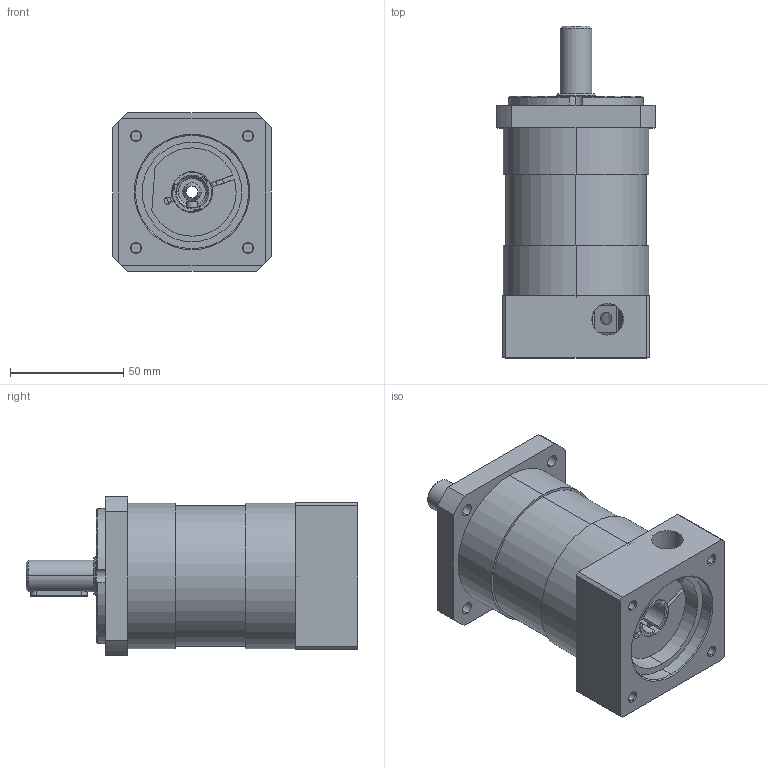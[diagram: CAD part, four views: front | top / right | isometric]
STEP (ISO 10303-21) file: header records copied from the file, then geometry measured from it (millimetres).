
FILE_DESCRIPTION (( 'STEP AP214' ), '1' );
FILE_NAME ('64媼撰源怀堤俋褲.STEP', '2017-04-27T05:12:10', ( '' ), ( '' ), 'SwSTEP 2.0', 'SolidWorks 2016', '' );
FILE_SCHEMA (( 'AUTOMOTIVE_DESIGN' ));
Length unit declared in the file: millimetre
Products named in the file (1): 64媼撰源怀堤俋褲
Bounding box: 70 x 146.6 x 70 mm (x, y, z)
Surface area: 49534.2 mm2 (no closed solid volume)
Topology: 0 solids, 11 shells, 163 faces, 513 edges, 362 vertices
Faces by surface type: cylinder 90, plane 43, cone 28, torus 2
Entity records: 7897 total; most frequent: CARTESIAN_POINT 1403, DIRECTION 1057, ORIENTED_EDGE 862, EDGE_CURVE 513, AXIS2_PLACEMENT_3D 426, VERTEX_POINT 362, CIRCLE 262, VECTOR 205
